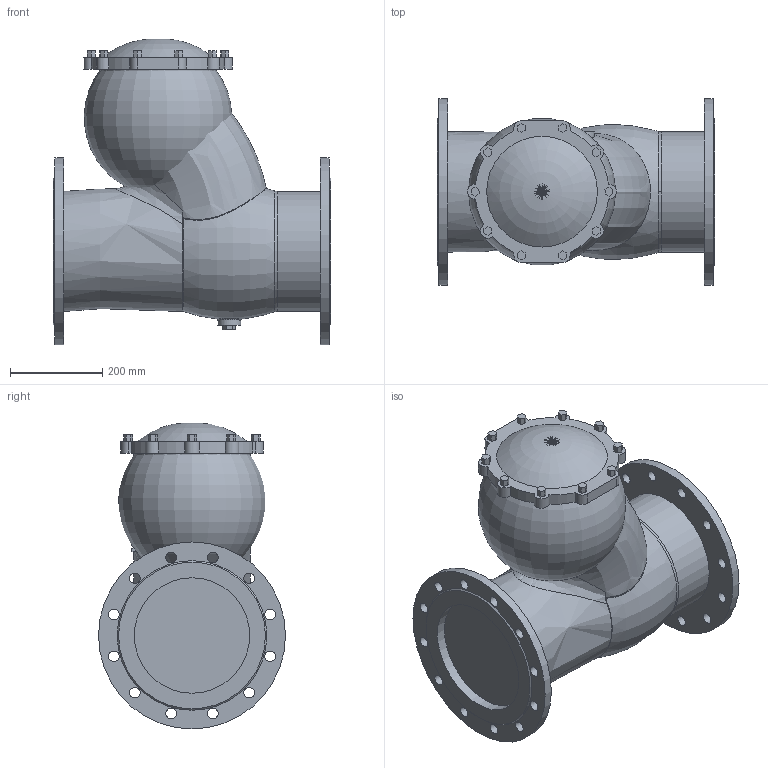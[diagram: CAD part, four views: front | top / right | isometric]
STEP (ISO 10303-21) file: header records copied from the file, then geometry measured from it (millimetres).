
FILE_DESCRIPTION(('STEP AP203'), '1');
FILE_NAME('抔黽鳧 012F.M DN250_PN10', '', ('UNSPECIFIED'), ('UNSPECIFIED'), 'ASCON STEP Converter 1.6', 'ASCON Math Kernel', '');
FILE_SCHEMA(('CONFIG_CONTROL_DESIGN'));
Length unit declared in the file: millimetre
Products named in the file (1): Клапан 012F.M DN250_PN10
Bounding box: 600 x 405 x 662.67 mm (x, y, z)
Volume: 5334489.5 mm3; surface area: 2228805.9 mm2
Topology: 1 solids, 2 shells, 176 faces, 447 edges, 297 vertices
Faces by surface type: plane 106, cylinder 57, bspline 6, torus 5, cone 2
Full cylindrical faces by diameter (mm): 23 x24, 50 x1, 250 x2, 260 x1, 405 x2
Entity records: 9684 total; most frequent: CARTESIAN_POINT 4007, DIRECTION 837, ORIENTED_EDGE 814, EDGE_CURVE 407, VERTEX_POINT 295, AXIS2_PLACEMENT_3D 291, EDGE_LOOP 284, LINE 255
